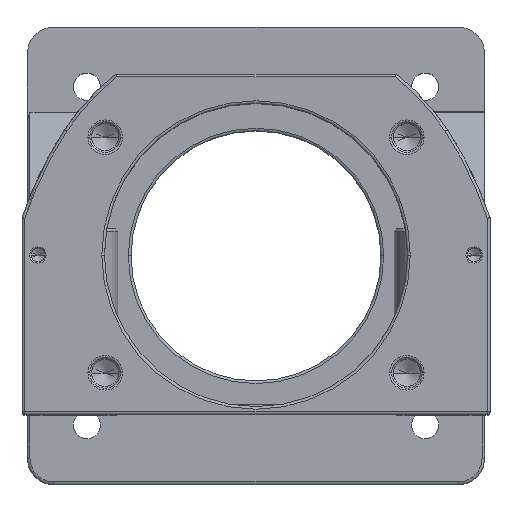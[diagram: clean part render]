
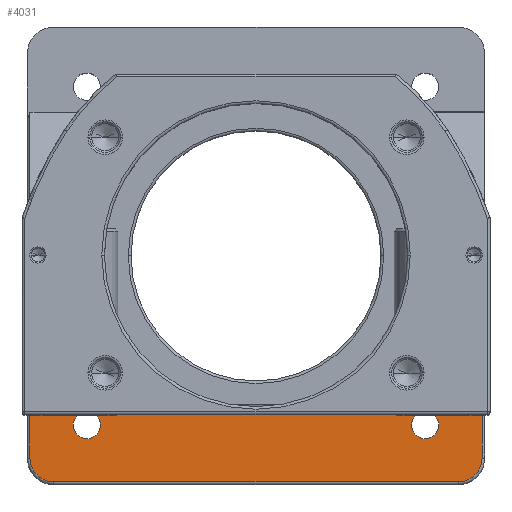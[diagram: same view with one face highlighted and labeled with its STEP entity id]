
A CAD part, top view. The second image highlights one B-rep face of the part: STEP entity #4031.
In plain terms, the highlighted planar face has unit normal (0, 0, 1).
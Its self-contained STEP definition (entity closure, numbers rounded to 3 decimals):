
#36 = CIRCLE ( 'NONE', #4307, 2.55 ) ;
#148 = CARTESIAN_POINT ( 'NONE',  ( -34.37, -31.82, 5. ) ) ;
#231 = CIRCLE ( 'NONE', #966, 2.55 ) ;
#291 = ORIENTED_EDGE ( 'NONE', *, *, #5508, .T. ) ;
#295 = EDGE_CURVE ( 'NONE', #5203, #1271, #1877, .T. ) ;
#378 = DIRECTION ( 'NONE',  ( -1., 0., 0. ) ) ;
#393 = CARTESIAN_POINT ( 'NONE',  ( 42.5, -38., 5. ) ) ;
#600 = CIRCLE ( 'NONE', #6471, 4.5 ) ;
#682 = LINE ( 'NONE', #1171, #5338 ) ;
#830 = EDGE_LOOP ( 'NONE', ( #2852, #4684 ) ) ;
#966 = AXIS2_PLACEMENT_3D ( 'NONE', #5303, #1026, #1674 ) ;
#1026 = DIRECTION ( 'NONE',  ( 0., 0., -1. ) ) ;
#1030 = CARTESIAN_POINT ( 'NONE',  ( 42.5, -43., 5. ) ) ;
#1171 = CARTESIAN_POINT ( 'NONE',  ( -42.5, -43., 5. ) ) ;
#1220 = EDGE_CURVE ( 'NONE', #2737, #5302, #600, .T. ) ;
#1255 = ORIENTED_EDGE ( 'NONE', *, *, #5944, .T. ) ;
#1271 = VERTEX_POINT ( 'NONE', #393 ) ;
#1280 = CIRCLE ( 'NONE', #1679, 2.55 ) ;
#1407 = EDGE_LOOP ( 'NONE', ( #291, #3177 ) ) ;
#1569 = EDGE_CURVE ( 'NONE', #6377, #3306, #36, .T. ) ;
#1636 = CARTESIAN_POINT ( 'NONE',  ( 38., -42.5, 5. ) ) ;
#1674 = DIRECTION ( 'NONE',  ( -1., 0., 0. ) ) ;
#1679 = AXIS2_PLACEMENT_3D ( 'NONE', #3389, #7622, #4021 ) ;
#1697 = PLANE ( 'NONE',  #7543 ) ;
#1786 = EDGE_CURVE ( 'NONE', #1271, #7013, #6744, .T. ) ;
#1877 = CIRCLE ( 'NONE', #4214, 4.5 ) ;
#1890 = ORIENTED_EDGE ( 'NONE', *, *, #7522, .F. ) ;
#1957 = DIRECTION ( 'NONE',  ( 0., 0., -1. ) ) ;
#2160 = EDGE_CURVE ( 'NONE', #7005, #2737, #682, .T. ) ;
#2629 = CARTESIAN_POINT ( 'NONE',  ( 34.37, -31.82, 5. ) ) ;
#2633 = CARTESIAN_POINT ( 'NONE',  ( -43., -42.5, 5. ) ) ;
#2701 = ORIENTED_EDGE ( 'NONE', *, *, #295, .T. ) ;
#2737 = VERTEX_POINT ( 'NONE', #6928 ) ;
#2778 = VECTOR ( 'NONE', #3769, 1000. ) ;
#2852 = ORIENTED_EDGE ( 'NONE', *, *, #5324, .T. ) ;
#2963 = FACE_OUTER_BOUND ( 'NONE', #7819, .T. ) ;
#3031 = CARTESIAN_POINT ( 'NONE',  ( 38., -38., 5. ) ) ;
#3040 = DIRECTION ( 'NONE',  ( -1., 0., 0. ) ) ;
#3152 = DIRECTION ( 'NONE',  ( 0., 0., -1. ) ) ;
#3177 = ORIENTED_EDGE ( 'NONE', *, *, #1569, .T. ) ;
#3223 = CARTESIAN_POINT ( 'NONE',  ( 42.5, -28., 5. ) ) ;
#3285 = ORIENTED_EDGE ( 'NONE', *, *, #2160, .T. ) ;
#3306 = VERTEX_POINT ( 'NONE', #4606 ) ;
#3389 = CARTESIAN_POINT ( 'NONE',  ( 31.82, -31.82, 5. ) ) ;
#3515 = VERTEX_POINT ( 'NONE', #7120 ) ;
#3597 = VERTEX_POINT ( 'NONE', #148 ) ;
#3673 = EDGE_CURVE ( 'NONE', #3515, #3597, #231, .T. ) ;
#3769 = DIRECTION ( 'NONE',  ( 1., 0., 0. ) ) ;
#3986 = DIRECTION ( 'NONE',  ( 0., -1., 0. ) ) ;
#4021 = DIRECTION ( 'NONE',  ( -1., 0., 0. ) ) ;
#4031 = ADVANCED_FACE ( 'NONE', ( #6009, #6187, #2963 ), #1697, .F. ) ;
#4214 = AXIS2_PLACEMENT_3D ( 'NONE', #3031, #6841, #378 ) ;
#4307 = AXIS2_PLACEMENT_3D ( 'NONE', #5398, #1957, #7204 ) ;
#4343 = ORIENTED_EDGE ( 'NONE', *, *, #1220, .T. ) ;
#4468 = CARTESIAN_POINT ( 'NONE',  ( -42.5, -28., 5. ) ) ;
#4606 = CARTESIAN_POINT ( 'NONE',  ( 29.27, -31.82, 5. ) ) ;
#4684 = ORIENTED_EDGE ( 'NONE', *, *, #3673, .T. ) ;
#4785 = VECTOR ( 'NONE', #7057, 1000. ) ;
#5018 = CARTESIAN_POINT ( 'NONE',  ( -43., -28., 5. ) ) ;
#5203 = VERTEX_POINT ( 'NONE', #1636 ) ;
#5251 = DIRECTION ( 'NONE',  ( 0., 0., 1. ) ) ;
#5302 = VERTEX_POINT ( 'NONE', #5785 ) ;
#5303 = CARTESIAN_POINT ( 'NONE',  ( -31.82, -31.82, 5. ) ) ;
#5324 = EDGE_CURVE ( 'NONE', #3597, #3515, #7075, .T. ) ;
#5338 = VECTOR ( 'NONE', #3986, 1000. ) ;
#5398 = CARTESIAN_POINT ( 'NONE',  ( 31.82, -31.82, 5. ) ) ;
#5508 = EDGE_CURVE ( 'NONE', #3306, #6377, #1280, .T. ) ;
#5563 = CARTESIAN_POINT ( 'NONE',  ( -38., -38., 5. ) ) ;
#5785 = CARTESIAN_POINT ( 'NONE',  ( -38., -42.5, 5. ) ) ;
#5938 = CARTESIAN_POINT ( 'NONE',  ( -43., -43., 5. ) ) ;
#5944 = EDGE_CURVE ( 'NONE', #5302, #5203, #7529, .T. ) ;
#5949 = VECTOR ( 'NONE', #6257, 1000. ) ;
#6009 = FACE_BOUND ( 'NONE', #830, .T. ) ;
#6100 = DIRECTION ( 'NONE',  ( -1., 0., 0. ) ) ;
#6187 = FACE_BOUND ( 'NONE', #1407, .T. ) ;
#6193 = LINE ( 'NONE', #5018, #2778 ) ;
#6257 = DIRECTION ( 'NONE',  ( 1., 0., 0. ) ) ;
#6377 = VERTEX_POINT ( 'NONE', #2629 ) ;
#6471 = AXIS2_PLACEMENT_3D ( 'NONE', #5563, #5251, #3040 ) ;
#6558 = AXIS2_PLACEMENT_3D ( 'NONE', #6780, #3152, #7377 ) ;
#6744 = LINE ( 'NONE', #1030, #4785 ) ;
#6780 = CARTESIAN_POINT ( 'NONE',  ( -31.82, -31.82, 5. ) ) ;
#6841 = DIRECTION ( 'NONE',  ( 0., 0., 1. ) ) ;
#6928 = CARTESIAN_POINT ( 'NONE',  ( -42.5, -38., 5. ) ) ;
#6968 = ORIENTED_EDGE ( 'NONE', *, *, #1786, .T. ) ;
#7005 = VERTEX_POINT ( 'NONE', #4468 ) ;
#7013 = VERTEX_POINT ( 'NONE', #3223 ) ;
#7057 = DIRECTION ( 'NONE',  ( 0., 1., 0. ) ) ;
#7075 = CIRCLE ( 'NONE', #6558, 2.55 ) ;
#7120 = CARTESIAN_POINT ( 'NONE',  ( -29.27, -31.82, 5. ) ) ;
#7204 = DIRECTION ( 'NONE',  ( -1., 0., 0. ) ) ;
#7302 = DIRECTION ( 'NONE',  ( 0., 0., -1. ) ) ;
#7377 = DIRECTION ( 'NONE',  ( -1., 0., 0. ) ) ;
#7522 = EDGE_CURVE ( 'NONE', #7005, #7013, #6193, .T. ) ;
#7529 = LINE ( 'NONE', #2633, #5949 ) ;
#7543 = AXIS2_PLACEMENT_3D ( 'NONE', #5938, #7302, #6100 ) ;
#7622 = DIRECTION ( 'NONE',  ( 0., 0., -1. ) ) ;
#7819 = EDGE_LOOP ( 'NONE', ( #1890, #3285, #4343, #1255, #2701, #6968 ) ) ;
